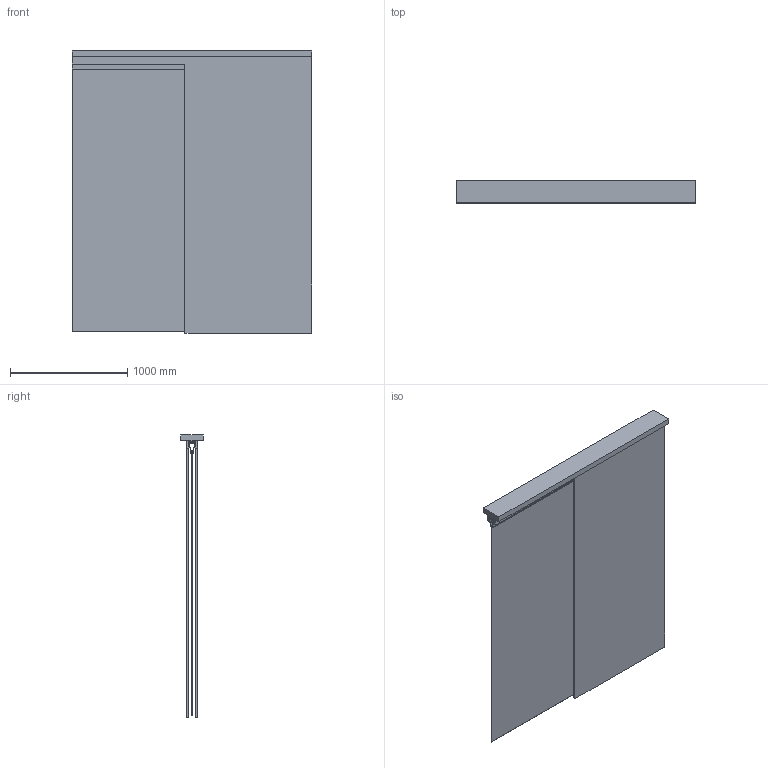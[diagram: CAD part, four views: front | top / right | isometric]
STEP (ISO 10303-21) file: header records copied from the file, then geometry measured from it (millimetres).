
FILE_DESCRIPTION(('STEP AP242'),'1');
FILE_NAME('OPO_56.047.52_volu_schn_3d.stp','2026-02-23T17:26:42',(' '),(' '),'Spatial InterOp 3D',' ',' ');
FILE_SCHEMA(('AP242_MANAGED_MODEL_BASED_3D_ENGINEERING_MIM_LF {1 0 10303 442 1 1 4}'));
Length unit declared in the file: millimetre
Products named in the file (1): 1
Bounding box: 2050 x 188 x 2410 mm (x, y, z)
Volume: 138664962 mm3; surface area: 17820690.9 mm2
Topology: 8 solids, 8 shells, 412 faces, 5128 edges, 8614 vertices
Faces by surface type: plane 332, cylinder 80
Entity records: 64983 total; most frequent: DIRECTION 6698, CARTESIAN_POINT 6369, STYLED_ITEM 4428, PRESENTATION_STYLE_ASSIGNMENT 4428, COLOUR_RGB 4428, LINE 4376, VECTOR 4376, COMPOSITE_CURVE 4016
